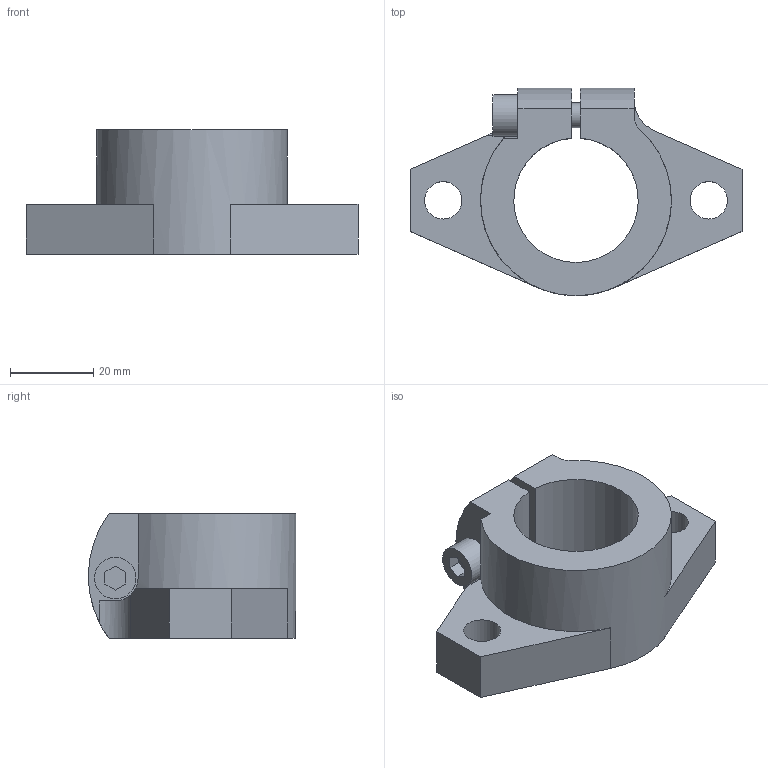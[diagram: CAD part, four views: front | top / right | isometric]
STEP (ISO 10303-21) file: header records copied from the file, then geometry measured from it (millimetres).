
FILE_DESCRIPTION(('STEP AP203'),'1');
FILE_NAME('//192.168.1.1/share/s-4 技術開発/s-4-14_個人別フォルダ/橋詰/09_CAD_DATA/3D/HP用/3Ｄモデル/SNF/SNF-30A.step','2021-09-16T23:49:14',(' '),(' '),'Spatial InterOp 3D',' ',' ');
FILE_SCHEMA(('CONFIG_CONTROL_DESIGN'));
Length unit declared in the file: millimetre
Products named in the file (2): 1; 2
Bounding box: 80 x 49.99 x 30 mm (x, y, z)
Volume: 41412.3 mm3; surface area: 14167.6 mm2
Topology: 2 solids, 2 shells, 43 faces, 112 edges, 74 vertices
Faces by surface type: plane 27, cylinder 15, cone 1
Full cylindrical faces by diameter (mm): 5 x2, 6 x2, 9 x2, 10 x1
Entity records: 1442 total; most frequent: CARTESIAN_POINT 305, DIRECTION 218, ORIENTED_EDGE 204, EDGE_CURVE 102, AXIS2_PLACEMENT_3D 77, VERTEX_POINT 72, LINE 64, VECTOR 64
